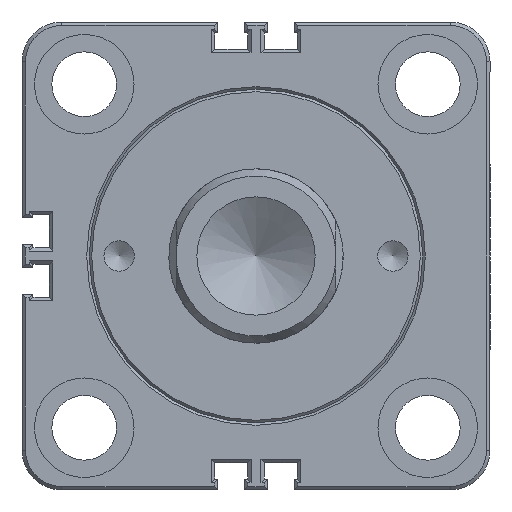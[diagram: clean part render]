
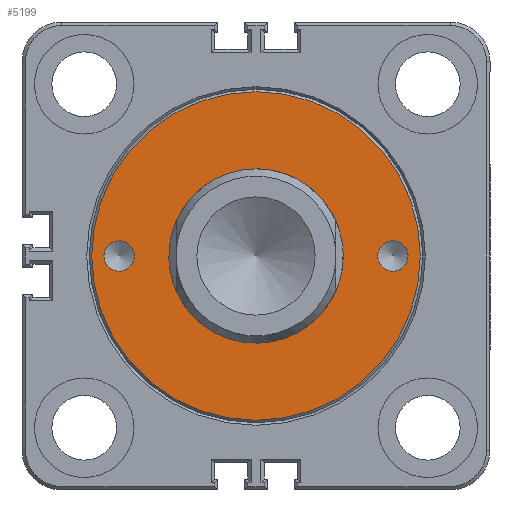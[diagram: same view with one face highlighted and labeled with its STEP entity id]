
A CAD part, front view. The second image highlights one B-rep face of the part: STEP entity #5199.
In plain terms, the highlighted planar face has unit normal (0, -1, 0).
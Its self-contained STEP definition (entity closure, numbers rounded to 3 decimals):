
#880=PLANE('',#5461);
#1105=ORIENTED_EDGE('',*,*,#2078,.T.);
#1106=ORIENTED_EDGE('',*,*,#2077,.F.);
#1107=ORIENTED_EDGE('',*,*,#2076,.T.);
#1108=ORIENTED_EDGE('',*,*,#2087,.T.);
#2076=EDGE_CURVE('',#2573,#2573,#2875,.T.);
#2077=EDGE_CURVE('',#2574,#2574,#2876,.T.);
#2078=EDGE_CURVE('',#2575,#2575,#2877,.T.);
#2087=EDGE_CURVE('',#2584,#2584,#2886,.T.);
#2573=VERTEX_POINT('',#6783);
#2574=VERTEX_POINT('',#6786);
#2575=VERTEX_POINT('',#6789);
#2584=VERTEX_POINT('',#6812);
#2875=CIRCLE('',#5444,3.05);
#2876=CIRCLE('',#5446,17.5);
#2877=CIRCLE('',#5448,3.05);
#2886=CIRCLE('',#5462,33.);
#2967=EDGE_LOOP('',(#1105));
#2968=EDGE_LOOP('',(#1106));
#2969=EDGE_LOOP('',(#1107));
#2970=EDGE_LOOP('',(#1108));
#3253=FACE_BOUND('',#2967,.T.);
#3254=FACE_BOUND('',#2968,.T.);
#3255=FACE_BOUND('',#2969,.T.);
#3256=FACE_BOUND('',#2970,.T.);
#5199=ADVANCED_FACE('',(#3253,#3254,#3255,#3256),#880,.T.);
#5444=AXIS2_PLACEMENT_3D('',#6782,#5776,#5777);
#5446=AXIS2_PLACEMENT_3D('',#6785,#5780,#5781);
#5448=AXIS2_PLACEMENT_3D('',#6788,#5784,#5785);
#5461=AXIS2_PLACEMENT_3D('',#6810,#5810,#5811);
#5462=AXIS2_PLACEMENT_3D('',#6811,#5812,#5813);
#5776=DIRECTION('',(0.,1.,0.));
#5777=DIRECTION('',(0.,0.,-1.));
#5780=DIRECTION('',(0.,-1.,0.));
#5781=DIRECTION('',(1.,0.,0.));
#5784=DIRECTION('',(0.,1.,0.));
#5785=DIRECTION('',(0.,0.,-1.));
#5810=DIRECTION('',(0.,-1.,0.));
#5811=DIRECTION('',(1.,0.,0.));
#5812=DIRECTION('',(0.,-1.,0.));
#5813=DIRECTION('',(0.,0.,-1.));
#6782=CARTESIAN_POINT('',(27.5,0.,0.));
#6783=CARTESIAN_POINT('',(27.5,0.,-3.05));
#6785=CARTESIAN_POINT('',(0.,0.,0.));
#6786=CARTESIAN_POINT('',(17.5,0.,0.));
#6788=CARTESIAN_POINT('',(-27.5,0.,0.));
#6789=CARTESIAN_POINT('',(-27.5,0.,-3.05));
#6810=CARTESIAN_POINT('',(-39.,0.,39.));
#6811=CARTESIAN_POINT('',(0.,0.,0.));
#6812=CARTESIAN_POINT('',(0.,0.,-33.));
